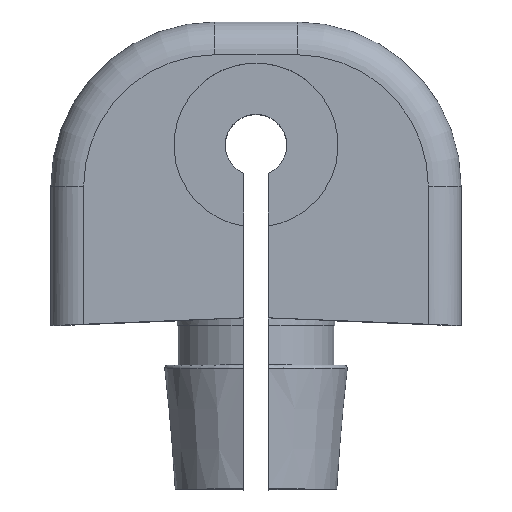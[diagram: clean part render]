
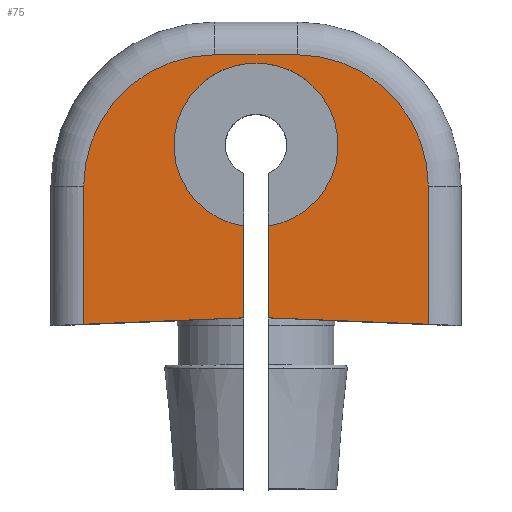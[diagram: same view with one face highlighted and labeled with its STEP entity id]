
A CAD part, top view. The second image highlights one B-rep face of the part: STEP entity #75.
In plain terms, the highlighted planar face has unit normal (0, 0, 1).
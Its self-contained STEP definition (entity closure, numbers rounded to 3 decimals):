
#45 = EDGE_CURVE ( 'NONE', #476, #223, #703, .T. ) ;
#50 = EDGE_CURVE ( 'NONE', #217, #1122, #503, .T. ) ;
#75 = ADVANCED_FACE ( 'NONE', ( #645 ), #1043, .F. ) ;
#81 = ORIENTED_EDGE ( 'NONE', *, *, #404, .F. ) ;
#92 = DIRECTION ( 'NONE',  ( -1., 0., 0. ) ) ;
#99 = CARTESIAN_POINT ( 'NONE',  ( 2.5, 16.5, 7.5 ) ) ;
#117 = EDGE_CURVE ( 'NONE', #121, #1265, #1038, .T. ) ;
#119 = AXIS2_PLACEMENT_3D ( 'NONE', #1305, #775, #365 ) ;
#121 = VERTEX_POINT ( 'NONE', #99 ) ;
#130 = EDGE_CURVE ( 'NONE', #1122, #875, #932, .T. ) ;
#137 = CARTESIAN_POINT ( 'NONE',  ( 0.75, 0.47, 7.5 ) ) ;
#156 = VECTOR ( 'NONE', #716, 1000. ) ;
#174 = DIRECTION ( 'NONE',  ( 0.999, 0.04, 0. ) ) ;
#212 = DIRECTION ( 'NONE',  ( 0., 0., -1. ) ) ;
#217 = VERTEX_POINT ( 'NONE', #137 ) ;
#223 = VERTEX_POINT ( 'NONE', #439 ) ;
#229 = CARTESIAN_POINT ( 'NONE',  ( 10.5, 8.5, 7.5 ) ) ;
#270 = DIRECTION ( 'NONE',  ( 0., 0., 1. ) ) ;
#298 = EDGE_CURVE ( 'NONE', #875, #121, #389, .T. ) ;
#311 = DIRECTION ( 'NONE',  ( 0., 1., 0. ) ) ;
#320 = CARTESIAN_POINT ( 'NONE',  ( 0., 11., 7.5 ) ) ;
#333 = CARTESIAN_POINT ( 'NONE',  ( -10.5, 8.5, 7.5 ) ) ;
#359 = LINE ( 'NONE', #594, #595 ) ;
#362 = VECTOR ( 'NONE', #92, 1000. ) ;
#365 = DIRECTION ( 'NONE',  ( -1., 0., 0. ) ) ;
#388 = CARTESIAN_POINT ( 'NONE',  ( 0., 0.5, 7.5 ) ) ;
#389 = CIRCLE ( 'NONE', #1169, 8. ) ;
#404 = EDGE_CURVE ( 'NONE', #217, #850, #929, .T. ) ;
#414 = ORIENTED_EDGE ( 'NONE', *, *, #130, .T. ) ;
#427 = DIRECTION ( 'NONE',  ( -1., 0., 0. ) ) ;
#439 = CARTESIAN_POINT ( 'NONE',  ( -10.5, 0.08, 7.5 ) ) ;
#453 = ORIENTED_EDGE ( 'NONE', *, *, #117, .T. ) ;
#476 = VERTEX_POINT ( 'NONE', #333 ) ;
#503 = LINE ( 'NONE', #388, #156 ) ;
#527 = CARTESIAN_POINT ( 'NONE',  ( -0.75, 6.057, 7.5 ) ) ;
#570 = EDGE_CURVE ( 'NONE', #737, #832, #359, .T. ) ;
#579 = VECTOR ( 'NONE', #311, 1000. ) ;
#591 = CARTESIAN_POINT ( 'NONE',  ( -10.5, 8.5, 7.5 ) ) ;
#594 = CARTESIAN_POINT ( 'NONE',  ( -0.75, -10., 7.5 ) ) ;
#595 = VECTOR ( 'NONE', #1090, 1000. ) ;
#599 = LINE ( 'NONE', #668, #1154 ) ;
#609 = DIRECTION ( 'NONE',  ( 0., -1., 0. ) ) ;
#620 = CARTESIAN_POINT ( 'NONE',  ( 0.75, -10., 7.5 ) ) ;
#630 = CIRCLE ( 'NONE', #1262, 5. ) ;
#645 = FACE_OUTER_BOUND ( 'NONE', #1015, .T. ) ;
#668 = CARTESIAN_POINT ( 'NONE',  ( 0., 0.5, 7.5 ) ) ;
#703 = LINE ( 'NONE', #591, #946 ) ;
#716 = DIRECTION ( 'NONE',  ( 0.999, -0.04, 0. ) ) ;
#729 = ORIENTED_EDGE ( 'NONE', *, *, #923, .T. ) ;
#736 = DIRECTION ( 'NONE',  ( 0., 0., 1. ) ) ;
#737 = VERTEX_POINT ( 'NONE', #527 ) ;
#765 = EDGE_CURVE ( 'NONE', #850, #737, #630, .T. ) ;
#768 = ORIENTED_EDGE ( 'NONE', *, *, #570, .F. ) ;
#775 = DIRECTION ( 'NONE',  ( 0., 0., 1. ) ) ;
#803 = ORIENTED_EDGE ( 'NONE', *, *, #298, .T. ) ;
#805 = ORIENTED_EDGE ( 'NONE', *, *, #50, .T. ) ;
#832 = VERTEX_POINT ( 'NONE', #1066 ) ;
#834 = CARTESIAN_POINT ( 'NONE',  ( -2.5, 8.5, 7.5 ) ) ;
#836 = AXIS2_PLACEMENT_3D ( 'NONE', #834, #212, #427 ) ;
#850 = VERTEX_POINT ( 'NONE', #898 ) ;
#863 = ORIENTED_EDGE ( 'NONE', *, *, #1363, .T. ) ;
#875 = VERTEX_POINT ( 'NONE', #1335 ) ;
#888 = DIRECTION ( 'NONE',  ( -1., 0., 0. ) ) ;
#896 = CARTESIAN_POINT ( 'NONE',  ( -2.5, 16.5, 7.5 ) ) ;
#898 = CARTESIAN_POINT ( 'NONE',  ( 0.75, 6.057, 7.5 ) ) ;
#923 = EDGE_CURVE ( 'NONE', #223, #832, #599, .T. ) ;
#929 = LINE ( 'NONE', #620, #1220 ) ;
#932 = LINE ( 'NONE', #229, #579 ) ;
#946 = VECTOR ( 'NONE', #609, 1000. ) ;
#1015 = EDGE_LOOP ( 'NONE', ( #768, #1293, #81, #805, #414, #803, #453, #863, #1205, #729 ) ) ;
#1038 = LINE ( 'NONE', #1255, #362 ) ;
#1043 = PLANE ( 'NONE',  #836 ) ;
#1066 = CARTESIAN_POINT ( 'NONE',  ( -0.75, 0.47, 7.5 ) ) ;
#1090 = DIRECTION ( 'NONE',  ( 0., -1., 0. ) ) ;
#1122 = VERTEX_POINT ( 'NONE', #1342 ) ;
#1134 = CIRCLE ( 'NONE', #119, 8. ) ;
#1154 = VECTOR ( 'NONE', #174, 1000. ) ;
#1158 = DIRECTION ( 'NONE',  ( 1., 0., 0. ) ) ;
#1169 = AXIS2_PLACEMENT_3D ( 'NONE', #1319, #270, #888 ) ;
#1205 = ORIENTED_EDGE ( 'NONE', *, *, #45, .T. ) ;
#1220 = VECTOR ( 'NONE', #1275, 1000. ) ;
#1255 = CARTESIAN_POINT ( 'NONE',  ( -2.5, 16.5, 7.5 ) ) ;
#1262 = AXIS2_PLACEMENT_3D ( 'NONE', #320, #736, #1158 ) ;
#1265 = VERTEX_POINT ( 'NONE', #896 ) ;
#1275 = DIRECTION ( 'NONE',  ( 0., 1., 0. ) ) ;
#1293 = ORIENTED_EDGE ( 'NONE', *, *, #765, .F. ) ;
#1305 = CARTESIAN_POINT ( 'NONE',  ( -2.5, 8.5, 7.5 ) ) ;
#1319 = CARTESIAN_POINT ( 'NONE',  ( 2.5, 8.5, 7.5 ) ) ;
#1335 = CARTESIAN_POINT ( 'NONE',  ( 10.5, 8.5, 7.5 ) ) ;
#1342 = CARTESIAN_POINT ( 'NONE',  ( 10.5, 0.08, 7.5 ) ) ;
#1363 = EDGE_CURVE ( 'NONE', #1265, #476, #1134, .T. ) ;
